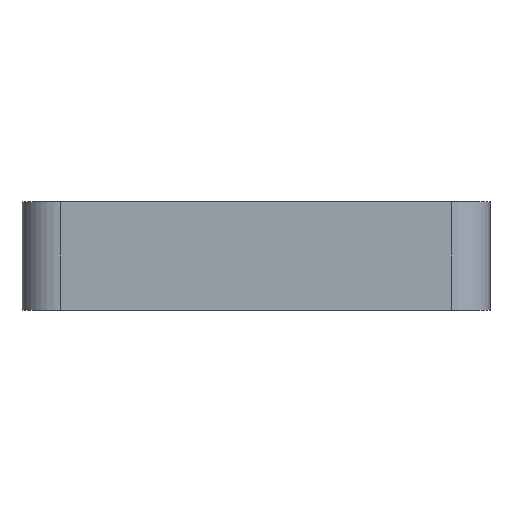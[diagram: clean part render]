
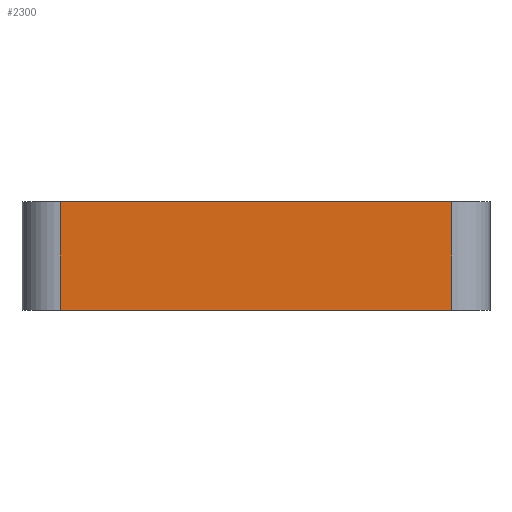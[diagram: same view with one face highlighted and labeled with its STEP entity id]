
A CAD part, front view. The second image highlights one B-rep face of the part: STEP entity #2300.
In plain terms, the highlighted planar face has unit normal (0, -1, 0).
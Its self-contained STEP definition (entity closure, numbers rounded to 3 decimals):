
#602 = VERTEX_POINT('',#603);
#603 = CARTESIAN_POINT('',(-46.,-84.,-25.6));
#653 = VERTEX_POINT('',#654);
#654 = CARTESIAN_POINT('',(46.,-84.,-25.6));
#661 = EDGE_CURVE('',#602,#653,#662,.T.);
#662 = LINE('',#663,#664);
#663 = CARTESIAN_POINT('',(-46.,-84.,-25.6));
#664 = VECTOR('',#665,1.);
#665 = DIRECTION('',(1.,0.,0.));
#2219 = VERTEX_POINT('',#2220);
#2220 = CARTESIAN_POINT('',(-46.,-84.,0.));
#2234 = EDGE_CURVE('',#602,#2219,#2235,.T.);
#2235 = LINE('',#2236,#2237);
#2236 = CARTESIAN_POINT('',(-46.,-84.,-25.6));
#2237 = VECTOR('',#2238,1.);
#2238 = DIRECTION('',(0.,0.,1.));
#2300 = ADVANCED_FACE('',(#2301),#2319,.F.);
#2301 = FACE_BOUND('',#2302,.F.);
#2302 = EDGE_LOOP('',(#2303,#2304,#2305,#2313));
#2303 = ORIENTED_EDGE('',*,*,#661,.F.);
#2304 = ORIENTED_EDGE('',*,*,#2234,.T.);
#2305 = ORIENTED_EDGE('',*,*,#2306,.T.);
#2306 = EDGE_CURVE('',#2219,#2307,#2309,.T.);
#2307 = VERTEX_POINT('',#2308);
#2308 = CARTESIAN_POINT('',(46.,-84.,0.));
#2309 = LINE('',#2310,#2311);
#2310 = CARTESIAN_POINT('',(-46.,-84.,0.));
#2311 = VECTOR('',#2312,1.);
#2312 = DIRECTION('',(1.,0.,0.));
#2313 = ORIENTED_EDGE('',*,*,#2314,.F.);
#2314 = EDGE_CURVE('',#653,#2307,#2315,.T.);
#2315 = LINE('',#2316,#2317);
#2316 = CARTESIAN_POINT('',(46.,-84.,-25.6));
#2317 = VECTOR('',#2318,1.);
#2318 = DIRECTION('',(0.,0.,1.));
#2319 = PLANE('',#2320);
#2320 = AXIS2_PLACEMENT_3D('',#2321,#2322,#2323);
#2321 = CARTESIAN_POINT('',(-46.,-84.,-25.6));
#2322 = DIRECTION('',(0.,1.,0.));
#2323 = DIRECTION('',(0.,0.,1.));
